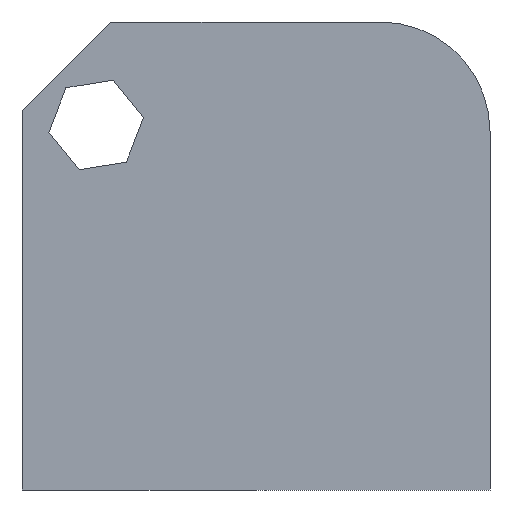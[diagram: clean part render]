
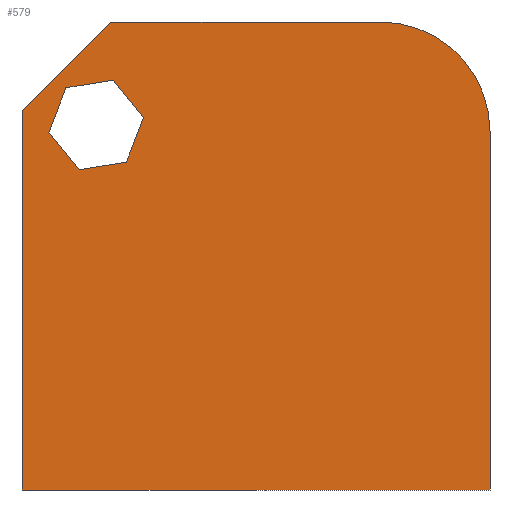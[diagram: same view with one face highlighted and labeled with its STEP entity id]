
A CAD part, left-side view. The second image highlights one B-rep face of the part: STEP entity #579.
In plain terms, the highlighted planar face has unit normal (-1, 0, 0).
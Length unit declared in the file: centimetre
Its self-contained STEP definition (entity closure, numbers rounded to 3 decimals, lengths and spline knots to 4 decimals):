
#10 = CARTESIAN_POINT ( 'NONE',  ( 0., 234.0368, 1000. ) ) ;
#13 = CARTESIAN_POINT ( 'NONE',  ( 0., 1000., 0. ) ) ;
#15 = VECTOR ( 'NONE', #405, 100. ) ;
#17 = LINE ( 'NONE', #204, #391 ) ;
#18 = DIRECTION ( 'NONE',  ( 0., -0.987, 0.159 ) ) ;
#19 = CARTESIAN_POINT ( 'NONE',  ( 0., 0., 765.9632 ) ) ;
#24 = CARTESIAN_POINT ( 'NONE',  ( 0., 740.3789, 796.2839 ) ) ;
#25 = DIRECTION ( 'NONE',  ( 0., 0., -1. ) ) ;
#46 = AXIS2_PLACEMENT_3D ( 'NONE', #498, #451, #212 ) ;
#61 = DIRECTION ( 'NONE',  ( 0., -1., 0. ) ) ;
#69 = CARTESIAN_POINT ( 'NONE',  ( 0., 0., 1000. ) ) ;
#72 = EDGE_CURVE ( 'NONE', #508, #122, #522, .T. ) ;
#83 = EDGE_CURVE ( 'NONE', #224, #601, #201, .T. ) ;
#87 = VERTEX_POINT ( 'NONE', #10 ) ;
#89 = ORIENTED_EDGE ( 'NONE', *, *, #427, .F. ) ;
#99 = CARTESIAN_POINT ( 'NONE',  ( 0., 906.0916, 859.48 ) ) ;
#103 = CARTESIAN_POINT ( 'NONE',  ( 0., 810.3428, 1000. ) ) ;
#108 = LINE ( 'NONE', #444, #399 ) ;
#114 = EDGE_CURVE ( 'NONE', #264, #266, #247, .T. ) ;
#119 = EDGE_LOOP ( 'NONE', ( #458, #409, #505, #502, #89, #406 ) ) ;
#121 = ORIENTED_EDGE ( 'NONE', *, *, #134, .T. ) ;
#122 = VERTEX_POINT ( 'NONE', #13 ) ;
#124 = CIRCLE ( 'NONE', #245, 234.0368 ) ;
#131 = CARTESIAN_POINT ( 'NONE',  ( 0., 1000., 1000. ) ) ;
#134 = EDGE_CURVE ( 'NONE', #173, #508, #17, .T. ) ;
#140 = CARTESIAN_POINT ( 'NONE',  ( 0., 942.5779, 763.8058 ) ) ;
#144 = DIRECTION ( 'NONE',  ( 0., 0.987, -0.159 ) ) ;
#152 = DIRECTION ( 'NONE',  ( 0., 0.707, -0.707 ) ) ;
#167 = ORIENTED_EDGE ( 'NONE', *, *, #246, .F. ) ;
#173 = VERTEX_POINT ( 'NONE', #103 ) ;
#200 = VECTOR ( 'NONE', #250, 100. ) ;
#201 = LINE ( 'NONE', #482, #419 ) ;
#204 = CARTESIAN_POINT ( 'NONE',  ( 0., 810.3428, 1000. ) ) ;
#212 = DIRECTION ( 'NONE',  ( 0., 0., -1. ) ) ;
#224 = VERTEX_POINT ( 'NONE', #385 ) ;
#234 = ORIENTED_EDGE ( 'NONE', *, *, #504, .F. ) ;
#245 = AXIS2_PLACEMENT_3D ( 'NONE', #489, #251, #440 ) ;
#246 = EDGE_CURVE ( 'NONE', #173, #87, #327, .T. ) ;
#247 = LINE ( 'NONE', #580, #295 ) ;
#249 = CARTESIAN_POINT ( 'NONE',  ( 0., 0., 0. ) ) ;
#250 = DIRECTION ( 'NONE',  ( 0., 0., -1. ) ) ;
#251 = DIRECTION ( 'NONE',  ( -1., 0., 0. ) ) ;
#255 = LINE ( 'NONE', #302, #506 ) ;
#263 = FACE_OUTER_BOUND ( 'NONE', #358, .T. ) ;
#264 = VERTEX_POINT ( 'NONE', #99 ) ;
#266 = VERTEX_POINT ( 'NONE', #140 ) ;
#279 = ORIENTED_EDGE ( 'NONE', *, *, #461, .T. ) ;
#284 = VECTOR ( 'NONE', #25, 100. ) ;
#288 = CARTESIAN_POINT ( 'NONE',  ( 0., 1000., 1000. ) ) ;
#295 = VECTOR ( 'NONE', #443, 100. ) ;
#302 = CARTESIAN_POINT ( 'NONE',  ( 0., 1000., 0. ) ) ;
#307 = EDGE_CURVE ( 'NONE', #410, #264, #608, .T. ) ;
#310 = PLANE ( 'NONE',  #46 ) ;
#311 = VERTEX_POINT ( 'NONE', #330 ) ;
#315 = CARTESIAN_POINT ( 'NONE',  ( 0., 1000., 810.3428 ) ) ;
#327 = LINE ( 'NONE', #131, #490 ) ;
#330 = CARTESIAN_POINT ( 'NONE',  ( 0., 877.9647, 684.3705 ) ) ;
#345 = CARTESIAN_POINT ( 'NONE',  ( 0., 804.9921, 875.7191 ) ) ;
#358 = EDGE_LOOP ( 'NONE', ( #234, #607, #167, #121, #587, #279 ) ) ;
#379 = VERTEX_POINT ( 'NONE', #249 ) ;
#383 = VERTEX_POINT ( 'NONE', #19 ) ;
#385 = CARTESIAN_POINT ( 'NONE',  ( 0., 776.8652, 700.6096 ) ) ;
#391 = VECTOR ( 'NONE', #152, 100. ) ;
#399 = VECTOR ( 'NONE', #536, 100. ) ;
#405 = DIRECTION ( 'NONE',  ( 0., 0.631, 0.776 ) ) ;
#406 = ORIENTED_EDGE ( 'NONE', *, *, #484, .F. ) ;
#409 = ORIENTED_EDGE ( 'NONE', *, *, #307, .F. ) ;
#410 = VERTEX_POINT ( 'NONE', #345 ) ;
#419 = VECTOR ( 'NONE', #531, 100. ) ;
#427 = EDGE_CURVE ( 'NONE', #311, #224, #447, .T. ) ;
#440 = DIRECTION ( 'NONE',  ( 0., 0., -1. ) ) ;
#443 = DIRECTION ( 'NONE',  ( 0., 0.356, -0.934 ) ) ;
#444 = CARTESIAN_POINT ( 'NONE',  ( 0., 942.5779, 763.8058 ) ) ;
#446 = CARTESIAN_POINT ( 'NONE',  ( 0., 877.9647, 684.3705 ) ) ;
#447 = LINE ( 'NONE', #446, #539 ) ;
#451 = DIRECTION ( 'NONE',  ( 1., 0., 0. ) ) ;
#458 = ORIENTED_EDGE ( 'NONE', *, *, #114, .F. ) ;
#461 = EDGE_CURVE ( 'NONE', #122, #379, #255, .T. ) ;
#466 = CARTESIAN_POINT ( 'NONE',  ( 0., 804.9921, 875.7191 ) ) ;
#474 = EDGE_CURVE ( 'NONE', #383, #87, #124, .T. ) ;
#482 = CARTESIAN_POINT ( 'NONE',  ( 0., 776.8652, 700.6096 ) ) ;
#484 = EDGE_CURVE ( 'NONE', #266, #311, #108, .T. ) ;
#489 = CARTESIAN_POINT ( 'NONE',  ( 0., 234.0368, 765.9632 ) ) ;
#490 = VECTOR ( 'NONE', #559, 100. ) ;
#498 = CARTESIAN_POINT ( 'NONE',  ( 0., 1000., 1000. ) ) ;
#500 = LINE ( 'NONE', #24, #15 ) ;
#502 = ORIENTED_EDGE ( 'NONE', *, *, #83, .F. ) ;
#504 = EDGE_CURVE ( 'NONE', #383, #379, #546, .T. ) ;
#505 = ORIENTED_EDGE ( 'NONE', *, *, #534, .F. ) ;
#506 = VECTOR ( 'NONE', #61, 100. ) ;
#508 = VERTEX_POINT ( 'NONE', #315 ) ;
#522 = LINE ( 'NONE', #288, #200 ) ;
#531 = DIRECTION ( 'NONE',  ( 0., -0.356, 0.934 ) ) ;
#534 = EDGE_CURVE ( 'NONE', #601, #410, #500, .T. ) ;
#536 = DIRECTION ( 'NONE',  ( 0., -0.631, -0.776 ) ) ;
#539 = VECTOR ( 'NONE', #18, 100. ) ;
#543 = FACE_BOUND ( 'NONE', #119, .T. ) ;
#545 = VECTOR ( 'NONE', #144, 100. ) ;
#546 = LINE ( 'NONE', #69, #284 ) ;
#559 = DIRECTION ( 'NONE',  ( 0., -1., 0. ) ) ;
#579 = ADVANCED_FACE ( 'NONE', ( #543, #263 ), #310, .F. ) ;
#580 = CARTESIAN_POINT ( 'NONE',  ( 0., 906.0916, 859.48 ) ) ;
#587 = ORIENTED_EDGE ( 'NONE', *, *, #72, .T. ) ;
#593 = CARTESIAN_POINT ( 'NONE',  ( 0., 740.3789, 796.2839 ) ) ;
#601 = VERTEX_POINT ( 'NONE', #593 ) ;
#607 = ORIENTED_EDGE ( 'NONE', *, *, #474, .T. ) ;
#608 = LINE ( 'NONE', #466, #545 ) ;
